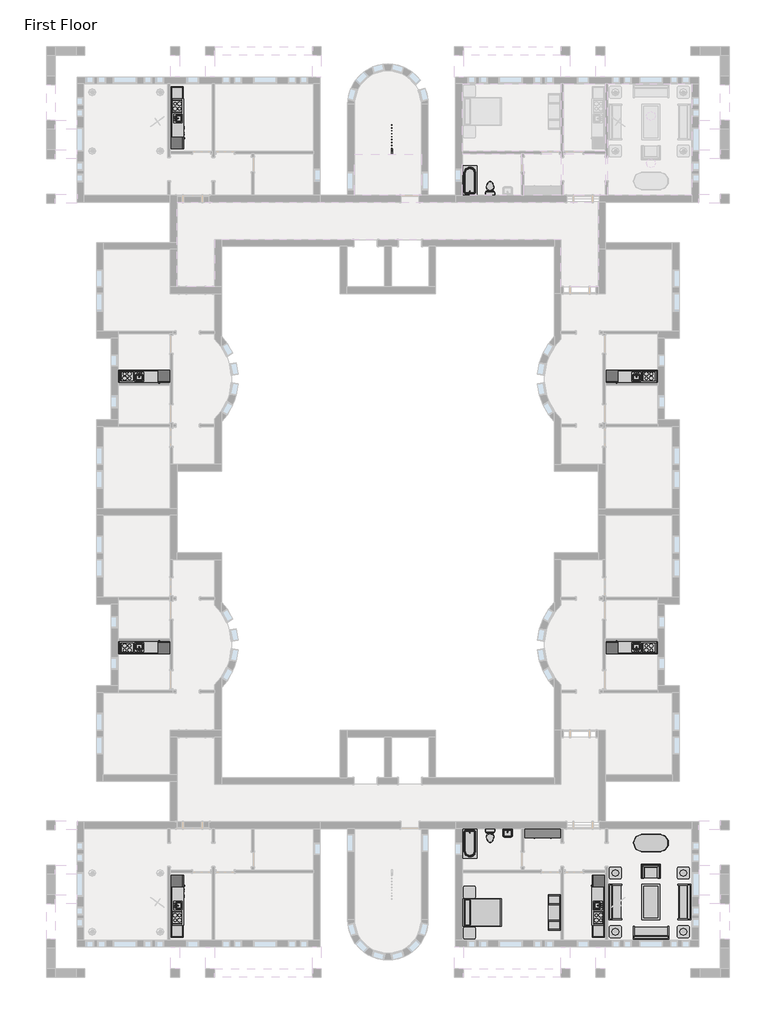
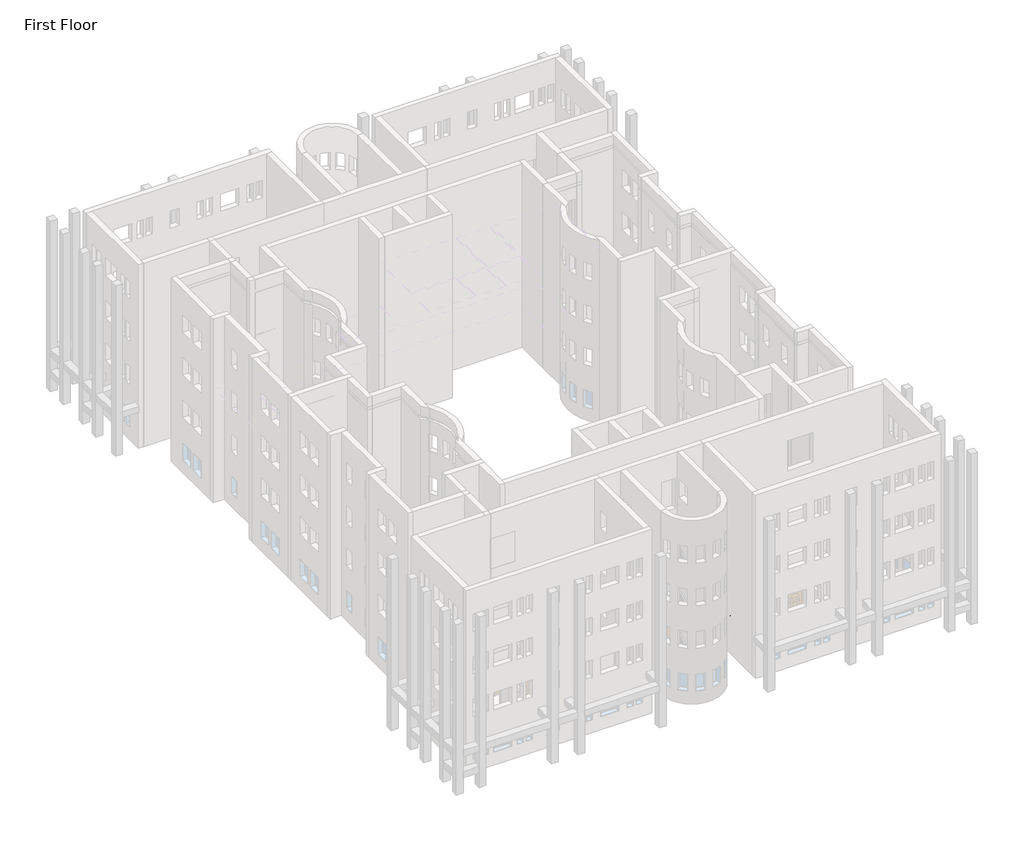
# One storey, part 22 of 23: 15 furniture elements, 7 proxies, 5 flow terminals, 1 railing.
"""IFC4 building model written with IfcOpenShell, lengths in millimetres."""

from ifc_helpers import new_model, si_unit, frame, origin, place, context, project, spatial, polyline, outline, extrude, transform, mapped, element, save
from components import kitchenette_medium_5_9f73a4de, kitchenette_medium_5_952fb32b, proxy_64a468c4, proxy_b7eaed23, flow_terminal_b53e1081, toilet_domestic_3d_toilet_domestic_3d_f7549cf7, toilet_domestic_3d_toilet_domestic_3d_183bbd19, toilet_domestic_3d_toilet_domestic_3d_a08e12bc, toilet_domestic_3d_toilet_domestic_3d_5530cc89, tub_rectangular_3d_tub_rectangular_3d_5e45a89b, tub_rectangular_3d_tub_rectangular_3d_98eb9c7c, furniture_097b173b, chair_corbu_chair_corbu_95fad79a, furniture_f6e81328, furniture_328d9d47, furniture_dde8a40a, furniture_c9413244, furniture_cc351095, furniture_3a588284, furniture_1befe2a2

model = new_model("IFC4")

# Units and contexts
model_context = context("Model", 3, world=origin())
ifc_project = project(units=[si_unit("LENGTHUNIT", "METRE", prefix="MILLI")], contexts=[model_context])

# Site, building, storey
site = spatial("IfcSite", under=ifc_project)
building = spatial("IfcBuilding", under=site)
storey = spatial("IfcBuildingStorey", under=building, Name="First Floor", Elevation=0.0)

# Proxies
placement = place(None, origin())
kitchenette_medium_5_shape = kitchenette_medium_5_9f73a4de(model_context)
element("IfcBuildingElementProxy", 1, Name="Kitchenette - Medium : 5'", ObjectType="Kitchenette - Medium : 5'", at=placement, inside=storey, context=model_context, shape_type="MappedRepresentation", body=[
    mapped(kitchenette_medium_5_shape, transform((-28239.6966612, -4494.4827414, 0.0), x_axis=(1.0, 0.0, 0.0), y_axis=(0.0, 1.0, 0.0), z_axis=(0.0, 0.0, 1.0))),
])
element("IfcBuildingElementProxy", 2, Name="Kitchenette - Medium : 5'", ObjectType="Kitchenette - Medium : 5'", at=placement, inside=storey, context=model_context, shape_type="MappedRepresentation", body=[
    mapped(kitchenette_medium_5_shape, transform((-1884.6462514, -19113.8538852, 0.0), x_axis=(-1.0, 0.0, 0.0), y_axis=(0.0, -1.0, 0.0), z_axis=(0.0, 0.0, 1.0))),
])
kitchenette_medium_5_2_shape = kitchenette_medium_5_952fb32b(model_context)
element("IfcBuildingElementProxy", 3, Name="Kitchenette - Medium : 5'", ObjectType="Kitchenette - Medium : 5'", at=placement, inside=storey, context=model_context, shape_type="MappedRepresentation", body=[
    mapped(kitchenette_medium_5_2_shape, transform((-1884.6462514, -4494.4827414, 0.0), x_axis=(-1.0, 0.0, 0.0), y_axis=(0.0, -1.0, 0.0), z_axis=(0.0, 0.0, 1.0))),
])
element("IfcBuildingElementProxy", 4, Name="Kitchenette - Medium : 5'", ObjectType="Kitchenette - Medium : 5'", at=placement, inside=storey, context=model_context, shape_type="MappedRepresentation", body=[
    mapped(kitchenette_medium_5_2_shape, transform((-28239.6966612, -19113.8538852, 0.0), x_axis=(1.0, 0.0, 0.0), y_axis=(0.0, 1.0, 0.0), z_axis=(0.0, 0.0, 1.0))),
])
proxy_shape = proxy_64a468c4(model_context)
element("IfcBuildingElementProxy", 5, Name="Kitchenette - Medium : 8'6\"", ObjectType="Kitchenette - Medium : 8'6\"", at=placement, inside=storey, context=model_context, shape_type="MappedRepresentation", body=[
    mapped(proxy_shape, transform((-26236.5839563, -32446.1322699, 0.0), x_axis=(0.0, 1.0, 0.0), y_axis=(-1.0, 0.0, 0.0), z_axis=(0.0, 0.0, 1.0))),
])
proxy_2_shape = proxy_b7eaed23(model_context)
element("IfcBuildingElementProxy", 6, Name="Kitchenette - Medium : 8'6\"", ObjectType="Kitchenette - Medium : 8'6\"", at=placement, inside=storey, context=model_context, shape_type="MappedRepresentation", body=[
    mapped(proxy_2_shape, transform((-26236.5839563, 8837.7956433, 0.0), x_axis=(0.0, -1.0, 0.0), y_axis=(1.0, 0.0, 0.0), z_axis=(0.0, 0.0, 1.0))),
])
element("IfcBuildingElementProxy", 7, Name="Kitchenette - Medium : 8'6\"", ObjectType="Kitchenette - Medium : 8'6\"", at=placement, inside=storey, context=model_context, shape_type="MappedRepresentation", body=[
    mapped(proxy_2_shape, transform((-3887.7589563, -32446.1322699, 0.0), x_axis=(0.0, 1.0, 0.0), y_axis=(-1.0, 0.0, 0.0), z_axis=(0.0, 0.0, 1.0))),
])

# Flow terminals
flow_terminal_shape = flow_terminal_b53e1081(model_context)
element("IfcFlowTerminal", 8, ObjectType="Sink Vanity-Square : 24\" x 19\"", at=placement, inside=storey, context=model_context, shape_type="MappedRepresentation", body=[
    mapped(flow_terminal_shape, transform((-8864.7572157, -28314.9262144, 0.0), x_axis=(-1.0, 0.0, 0.0), y_axis=(0.0, -1.0, 0.0), z_axis=(0.0, 0.0, 1.0))),
])
toilet_domestic_3d_toilet_domestic_3d_shape = toilet_domestic_3d_toilet_domestic_3d_f7549cf7(model_context)
toilet_domestic_3d_toilet_domestic_3d_2_shape = toilet_domestic_3d_toilet_domestic_3d_183bbd19(model_context)
element("IfcFlowTerminal", 9, ObjectType="Toilet-Domestic-3D : Toilet-Domestic-3D", at=placement, inside=storey, context=model_context, shape_type="MappedRepresentation", body=[
    mapped(toilet_domestic_3d_toilet_domestic_3d_shape, transform((-9782.1466587, 4940.866411, 0.0), x_axis=(-1.0000000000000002, 0.0, 0.0), y_axis=(0.0, -1.0000000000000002, 0.0), z_axis=(0.0, 0.0, 1.0))),
    mapped(toilet_domestic_3d_toilet_domestic_3d_2_shape, transform((-9782.1466587, 4940.866411, 0.0), x_axis=(-1.0000000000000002, 0.0, 0.0), y_axis=(0.0, -1.0000000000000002, 0.0), z_axis=(0.0, 0.0, 1.0))),
])
toilet_domestic_3d_toilet_domestic_3d_3_shape = toilet_domestic_3d_toilet_domestic_3d_a08e12bc(model_context)
toilet_domestic_3d_toilet_domestic_3d_4_shape = toilet_domestic_3d_toilet_domestic_3d_5530cc89(model_context)
element("IfcFlowTerminal", 10, ObjectType="Toilet-Domestic-3D : Toilet-Domestic-3D", at=placement, inside=storey, context=model_context, shape_type="MappedRepresentation", body=[
    mapped(toilet_domestic_3d_toilet_domestic_3d_3_shape, transform((-9782.1466587, -28549.2030376, 0.0), x_axis=(-1.0000000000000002, 0.0, 0.0), y_axis=(0.0, -1.0000000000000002, 0.0), z_axis=(0.0, 0.0, 1.0))),
    mapped(toilet_domestic_3d_toilet_domestic_3d_4_shape, transform((-9782.1466587, -28549.2030376, 0.0), x_axis=(-1.0000000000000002, 0.0, 0.0), y_axis=(0.0, -1.0000000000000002, 0.0), z_axis=(0.0, 0.0, 1.0))),
])
tub_rectangular_3d_tub_rectangular_3d_shape = tub_rectangular_3d_tub_rectangular_3d_5e45a89b(model_context)
element("IfcFlowTerminal", 11, ObjectType="Tub-Rectangular-3D : Tub-Rectangular-3D", at=placement, inside=storey, context=model_context, shape_type="MappedRepresentation", body=[
    mapped(tub_rectangular_3d_tub_rectangular_3d_shape, transform((-11393.4589563, 5637.0471554, 0.0), x_axis=(0.0, 1.0, 0.0), y_axis=(-1.0, 0.0, 0.0), z_axis=(0.0, 0.0, 1.0))),
])
tub_rectangular_3d_tub_rectangular_3d_2_shape = tub_rectangular_3d_tub_rectangular_3d_98eb9c7c(model_context)
element("IfcFlowTerminal", 12, ObjectType="Tub-Rectangular-3D : Tub-Rectangular-3D", at=placement, inside=storey, context=model_context, shape_type="MappedRepresentation", body=[
    mapped(tub_rectangular_3d_tub_rectangular_3d_2_shape, transform((-11393.4589563, -29245.383782, 0.0), x_axis=(0.0, -1.0, 0.0), y_axis=(1.0, 0.0, 0.0), z_axis=(0.0, 0.0, 1.0))),
])

# Furniture
furniture_shape = furniture_097b173b(model_context)
element("IfcFurniture", 13, ObjectType="Bed-Shaker : Double 56\" x 78\"", at=placement, inside=storey, context=model_context, shape_type="MappedRepresentation", body=[
    mapped(furniture_shape, transform((-11183.1982802, -32480.2121827, 0.0), x_axis=(0.0, -1.0, 0.0), y_axis=(1.0, 0.0, 0.0), z_axis=(0.0, 0.0, 1.0))),
])
chair_corbu_chair_corbu_shape = chair_corbu_chair_corbu_95fad79a(model_context)
element("IfcFurniture", 14, ObjectType="Chair-Corbu : Chair-Corbu", at=placement, inside=storey, context=model_context, shape_type="MappedRepresentation", body=[
    mapped(chair_corbu_chair_corbu_shape, transform((-914.0851858, -30801.8328625, 0.0), x_axis=(-1.0, 0.0, 0.0), y_axis=(0.0, -1.0, 0.0), z_axis=(0.0, 0.0, 1.0))),
])
furniture_2_shape = furniture_f6e81328(model_context)
element("IfcFurniture", 15, ObjectType="Dresser : 72\" x 60\" x 18\"", at=placement, inside=storey, context=model_context, shape_type="MappedRepresentation", body=[
    mapped(furniture_2_shape, transform((-7344.6522161, -28012.9178592, 0.0), x_axis=(-1.0, 0.0, 0.0), y_axis=(0.0, -1.0, 0.0), z_axis=(0.0, 0.0, 1.0))),
])
furniture_3_shape = furniture_328d9d47(model_context)
element("IfcFurniture", 16, ObjectType="Entertainment Center : 72\" x 72\" x 24\"", at=placement, inside=storey, context=model_context, shape_type="MappedRepresentation", body=[
    mapped(furniture_3_shape, transform((-6059.4589563, -32461.1621827, 0.0), x_axis=(0.0, 1.0, 0.0), y_axis=(-1.0, 0.0, 0.0), z_axis=(0.0, 0.0, 1.0))),
])
furniture_4_shape = furniture_dde8a40a(model_context)
element("IfcFurniture", 17, ObjectType="Sofa : 72\"", at=placement, inside=storey, context=model_context, shape_type="MappedRepresentation", body=[
    mapped(furniture_4_shape, transform((-1557.8294481, -33349.614215, 0.0), x_axis=(1.0, 0.0, 0.0), y_axis=(0.0, 1.0, 0.0), z_axis=(0.0, 0.0, 1.0))),
])
element("IfcFurniture", 18, ObjectType="Sofa : 72\"", at=placement, inside=storey, context=model_context, shape_type="MappedRepresentation", body=[
    mapped(furniture_4_shape, transform((93.5869453, -31991.3388051, 0.0), x_axis=(0.0, 1.0, 0.0), y_axis=(-1.0, 0.0, 0.0), z_axis=(0.0, 0.0, 1.0))),
])
element("IfcFurniture", 19, ObjectType="Sofa : 72\"", at=placement, inside=storey, context=model_context, shape_type="MappedRepresentation", body=[
    mapped(furniture_4_shape, transform((-3170.104858, -31850.5978215, 0.0), x_axis=(0.0, -1.0, 0.0), y_axis=(1.0, 0.0, 0.0), z_axis=(0.0, 0.0, 1.0))),
])
furniture_5_shape = furniture_c9413244(model_context)
element("IfcFurniture", 20, ObjectType="Table-Coffee : 36\" x 72\" x 18\"", at=placement, inside=storey, context=model_context, shape_type="MappedRepresentation", body=[
    mapped(furniture_5_shape, transform((-1582.6700341, -31939.23408, 0.0), x_axis=(0.0, 1.0, 0.0), y_axis=(-1.0, 0.0, 0.0), z_axis=(0.0, 0.0, 1.0))),
])
furniture_6_shape = furniture_cc351095(model_context)
element("IfcFurniture", 21, ObjectType="Table-Dining Oval : 36\" x 72\"", at=placement, inside=storey, context=model_context, shape_type="MappedRepresentation", body=[
    mapped(furniture_6_shape, transform((-1085.6392842, -29231.066674, 0.0), x_axis=(1.0, 0.0, 0.0), y_axis=(0.0, 1.0, 0.0), z_axis=(0.0, 0.0, 1.0))),
])
furniture_7_shape = furniture_3a588284(model_context)
element("IfcFurniture", 22, ObjectType="Table-End : 24\" x 24\"", at=placement, inside=storey, context=model_context, shape_type="MappedRepresentation", body=[
    mapped(furniture_7_shape, transform((-11164.2346356, -31557.9140031, 0.0), x_axis=(1.0, 0.0, 0.0), y_axis=(0.0, 1.0, 0.0), z_axis=(0.0, 0.0, 1.0))),
])
furniture_8_shape = furniture_1befe2a2(model_context)
element("IfcFurniture", 23, ObjectType="Table-End : 24\" x 24\"", at=placement, inside=storey, context=model_context, shape_type="MappedRepresentation", body=[
    mapped(furniture_8_shape, transform((-119.5925866, -33292.5683133, 0.0), x_axis=(1.0, 0.0, 0.0), y_axis=(0.0, 1.0, 0.0), z_axis=(0.0, 0.0, 1.0))),
])
element("IfcFurniture", 24, ObjectType="Table-End : 24\" x 24\"", at=placement, inside=storey, context=model_context, shape_type="MappedRepresentation", body=[
    mapped(furniture_8_shape, transform((-3624.7925866, -33292.5683133, 0.0), x_axis=(1.0, 0.0, 0.0), y_axis=(0.0, 1.0, 0.0), z_axis=(0.0, 0.0, 1.0))),
])
element("IfcFurniture", 25, ObjectType="Table-End : 24\" x 24\"", at=placement, inside=storey, context=model_context, shape_type="MappedRepresentation", body=[
    mapped(furniture_8_shape, transform((-3624.7925866, -30268.3808133, 0.0), x_axis=(1.0, 0.0, 0.0), y_axis=(0.0, 1.0, 0.0), z_axis=(0.0, 0.0, 1.0))),
])
element("IfcFurniture", 26, ObjectType="Table-End : 24\" x 24\"", at=placement, inside=storey, context=model_context, shape_type="MappedRepresentation", body=[
    mapped(furniture_8_shape, transform((-119.5925866, -30268.3808133, 0.0), x_axis=(1.0, 0.0, 0.0), y_axis=(0.0, 1.0, 0.0), z_axis=(0.0, 0.0, 1.0))),
])
element("IfcFurniture", 27, ObjectType="Table-End : 24\" x 24\"", at=placement, inside=storey, context=model_context, shape_type="MappedRepresentation", body=[
    mapped(furniture_8_shape, transform((-11164.2346356, -33364.4103623, 0.0), x_axis=(1.0, 0.0, 0.0), y_axis=(0.0, 1.0, 0.0), z_axis=(0.0, 0.0, 1.0))),
])

# Railing
element("IfcRailing", 28, ObjectType="Handrail - Rectangular", at=placement, inside=storey, context=model_context, shape_type="SweptSolid", body=[
    extrude(outline(polyline([(6636.2316867, 7120.3318731), (6636.2316867, 7179.7333333), (8820.6316867, 8503.6121212), (8820.6316867, 8444.2106609), (6636.2316867, 7120.3318731)])), frame((-14884.3714563, 0.0, 0.0), z_axis=(1.0, 0.0, 0.0), x_axis=(0.0, 1.0, 0.0)), (0.0, 0.0, 1.0), 50.8),
    extrude(outline(polyline([(-14833.5714563, 8871.4316867), (-14833.5714563, 8820.6316867), (-15225.6839563, 8820.6316867), (-15225.6839563, 8871.4316867), (-14833.5714563, 8871.4316867)])), frame((0.0, 0.0, 8483.6), z_axis=(0.0, 0.0, 1.0), x_axis=(1.0, 0.0, 0.0)), (0.0, 0.0, 1.0), 50.8),
    extrude(outline(polyline([(8871.4316867, 8703.7333333), (8871.4316867, 8644.3318731), (6636.2316867, 9998.9985397), (6636.2316867, 10058.4), (8871.4316867, 8703.7333333)])), frame((-15276.4839563, 0.0, 0.0), z_axis=(1.0, 0.0, 0.0), x_axis=(0.0, 1.0, 0.0)), (0.0, 0.0, 1.0), 50.8),
    extrude(outline(polyline([(6721.9566867, 9947.0439943), (6721.9566867, 9134.8266332), (6702.9066867, 9146.3720877), (6702.9066867, 9958.5894488), (6721.9566867, 9947.0439943)])), frame((-15260.6089563, 0.0, 0.0), z_axis=(1.0, 0.0, 0.0), x_axis=(0.0, 1.0, 0.0)), (0.0, 0.0, 1.0), 19.05),
    extrude(outline(polyline([(6874.3566867, 9854.6803579), (6874.3566867, 9042.4629968), (6855.3066867, 9054.0084513), (6855.3066867, 9866.2258125), (6874.3566867, 9854.6803579)])), frame((-15260.6089563, 0.0, 0.0), z_axis=(1.0, 0.0, 0.0), x_axis=(0.0, 1.0, 0.0)), (0.0, 0.0, 1.0), 19.05),
    extrude(outline(polyline([(7026.7566867, 9762.3167215), (7026.7566867, 8950.0993604), (7007.7066867, 8961.644815), (7007.7066867, 9773.8621761), (7026.7566867, 9762.3167215)])), frame((-15260.6089563, 0.0, 0.0), z_axis=(1.0, 0.0, 0.0), x_axis=(0.0, 1.0, 0.0)), (0.0, 0.0, 1.0), 19.05),
    extrude(outline(polyline([(7179.1566867, 9669.9530852), (7179.1566867, 8857.7357241), (7160.1066867, 8869.2811786), (7160.1066867, 9681.4985397), (7179.1566867, 9669.9530852)])), frame((-15260.6089563, 0.0, 0.0), z_axis=(1.0, 0.0, 0.0), x_axis=(0.0, 1.0, 0.0)), (0.0, 0.0, 1.0), 19.05),
    extrude(outline(polyline([(7331.5566867, 9577.5894488), (7331.5566867, 8765.3720877), (7312.5066867, 8776.9175422), (7312.5066867, 9589.1349034), (7331.5566867, 9577.5894488)])), frame((-15260.6089563, 0.0, 0.0), z_axis=(1.0, 0.0, 0.0), x_axis=(0.0, 1.0, 0.0)), (0.0, 0.0, 1.0), 19.05),
    extrude(outline(polyline([(7483.9566867, 9485.2258125), (7483.9566867, 8673.0084513), (7464.9066867, 8684.5539059), (7464.9066867, 9496.771267), (7483.9566867, 9485.2258125)])), frame((-15260.6089563, 0.0, 0.0), z_axis=(1.0, 0.0, 0.0), x_axis=(0.0, 1.0, 0.0)), (0.0, 0.0, 1.0), 19.05),
    extrude(outline(polyline([(7636.3566867, 9392.8621761), (7636.3566867, 8580.644815), (7617.3066867, 8592.1902695), (7617.3066867, 9404.4076306), (7636.3566867, 9392.8621761)])), frame((-15260.6089563, 0.0, 0.0), z_axis=(1.0, 0.0, 0.0), x_axis=(0.0, 1.0, 0.0)), (0.0, 0.0, 1.0), 19.05),
    extrude(outline(polyline([(7788.7566867, 9300.4985397), (7788.7566867, 8488.2811786), (7769.7066867, 8499.8266332), (7769.7066867, 9312.0439943), (7788.7566867, 9300.4985397)])), frame((-15260.6089563, 0.0, 0.0), z_axis=(1.0, 0.0, 0.0), x_axis=(0.0, 1.0, 0.0)), (0.0, 0.0, 1.0), 19.05),
    extrude(outline(polyline([(7941.1566867, 9208.1349034), (7941.1566867, 8395.9175422), (7922.1066867, 8407.4629968), (7922.1066867, 9219.6803579), (7941.1566867, 9208.1349034)])), frame((-15260.6089563, 0.0, 0.0), z_axis=(1.0, 0.0, 0.0), x_axis=(0.0, 1.0, 0.0)), (0.0, 0.0, 1.0), 19.05),
    extrude(outline(polyline([(8093.5566867, 9115.771267), (8093.5566867, 8303.5539059), (8074.5066867, 8315.0993604), (8074.5066867, 9127.3167215), (8093.5566867, 9115.771267)])), frame((-15260.6089563, 0.0, 0.0), z_axis=(1.0, 0.0, 0.0), x_axis=(0.0, 1.0, 0.0)), (0.0, 0.0, 1.0), 19.05),
    extrude(outline(polyline([(8245.9566867, 9023.4076306), (8245.9566867, 8211.1902695), (8226.9066867, 8222.7357241), (8226.9066867, 9034.9530852), (8245.9566867, 9023.4076306)])), frame((-15260.6089563, 0.0, 0.0), z_axis=(1.0, 0.0, 0.0), x_axis=(0.0, 1.0, 0.0)), (0.0, 0.0, 1.0), 19.05),
    extrude(outline(polyline([(8398.3566867, 8931.0439943), (8398.3566867, 8118.8266332), (8379.3066867, 8130.3720877), (8379.3066867, 8942.5894488), (8398.3566867, 8931.0439943)])), frame((-15260.6089563, 0.0, 0.0), z_axis=(1.0, 0.0, 0.0), x_axis=(0.0, 1.0, 0.0)), (0.0, 0.0, 1.0), 19.05),
    extrude(outline(polyline([(8550.7566867, 8838.6803579), (8550.7566867, 8026.4629968), (8531.7066867, 8038.0084513), (8531.7066867, 8850.2258125), (8550.7566867, 8838.6803579)])), frame((-15260.6089563, 0.0, 0.0), z_axis=(1.0, 0.0, 0.0), x_axis=(0.0, 1.0, 0.0)), (0.0, 0.0, 1.0), 19.05),
    extrude(outline(polyline([(8703.1566867, 8746.3167215), (8703.1566867, 7934.0993604), (8684.1066867, 7945.644815), (8684.1066867, 8757.8621761), (8703.1566867, 8746.3167215)])), frame((-15260.6089563, 0.0, 0.0), z_axis=(1.0, 0.0, 0.0), x_axis=(0.0, 1.0, 0.0)), (0.0, 0.0, 1.0), 19.05),
    extrude(outline(polyline([(-15154.2464563, 8836.5066867), (-15173.2964563, 8836.5066867), (-15173.2964563, 8855.5566867), (-15154.2464563, 8855.5566867), (-15154.2464563, 8836.5066867)])), frame((0.0, 0.0, 7696.2), z_axis=(0.0, 0.0, 1.0), x_axis=(1.0, 0.0, 0.0)), (0.0, 0.0, 1.0), 787.4),
    extrude(outline(polyline([(-15001.8464563, 8836.5066867), (-15020.8964563, 8836.5066867), (-15020.8964563, 8855.5566867), (-15001.8464563, 8855.5566867), (-15001.8464563, 8836.5066867)])), frame((0.0, 0.0, 7696.2), z_axis=(0.0, 0.0, 1.0), x_axis=(1.0, 0.0, 0.0)), (0.0, 0.0, 1.0), 787.4),
    extrude(outline(polyline([(8779.3566867, 8419.1955094), (8779.3566867, 7606.9781483), (8760.3066867, 7595.4326938), (8760.3066867, 8407.6500549), (8779.3566867, 8419.1955094)])), frame((-14868.4964563, 0.0, 0.0), z_axis=(1.0, 0.0, 0.0), x_axis=(0.0, 1.0, 0.0)), (0.0, 0.0, 1.0), 19.05),
    extrude(outline(polyline([(8626.9566867, 8326.8318731), (8626.9566867, 7514.6145119), (8607.9066867, 7503.0690574), (8607.9066867, 8315.2864185), (8626.9566867, 8326.8318731)])), frame((-14868.4964563, 0.0, 0.0), z_axis=(1.0, 0.0, 0.0), x_axis=(0.0, 1.0, 0.0)), (0.0, 0.0, 1.0), 19.05),
    extrude(outline(polyline([(8474.5566867, 8234.4682367), (8474.5566867, 7422.2508756), (8455.5066867, 7410.705421), (8455.5066867, 8222.9227822), (8474.5566867, 8234.4682367)])), frame((-14868.4964563, 0.0, 0.0), z_axis=(1.0, 0.0, 0.0), x_axis=(0.0, 1.0, 0.0)), (0.0, 0.0, 1.0), 19.05),
    extrude(outline(polyline([(8322.1566867, 8142.1046003), (8322.1566867, 7329.8872392), (8303.1066867, 7318.3417847), (8303.1066867, 8130.5591458), (8322.1566867, 8142.1046003)])), frame((-14868.4964563, 0.0, 0.0), z_axis=(1.0, 0.0, 0.0), x_axis=(0.0, 1.0, 0.0)), (0.0, 0.0, 1.0), 19.05),
    extrude(outline(polyline([(8169.7566867, 8049.740964), (8169.7566867, 7237.5236029), (8150.7066867, 7225.9781483), (8150.7066867, 8038.1955094), (8169.7566867, 8049.740964)])), frame((-14868.4964563, 0.0, 0.0), z_axis=(1.0, 0.0, 0.0), x_axis=(0.0, 1.0, 0.0)), (0.0, 0.0, 1.0), 19.05),
    extrude(outline(polyline([(8017.3566867, 7957.3773276), (8017.3566867, 7145.1599665), (7998.3066867, 7133.6145119), (7998.3066867, 7945.8318731), (8017.3566867, 7957.3773276)])), frame((-14868.4964563, 0.0, 0.0), z_axis=(1.0, 0.0, 0.0), x_axis=(0.0, 1.0, 0.0)), (0.0, 0.0, 1.0), 19.05),
    extrude(outline(polyline([(7864.9566867, 7865.0136912), (7864.9566867, 7052.7963301), (7845.9066867, 7041.2508756), (7845.9066867, 7853.4682367), (7864.9566867, 7865.0136912)])), frame((-14868.4964563, 0.0, 0.0), z_axis=(1.0, 0.0, 0.0), x_axis=(0.0, 1.0, 0.0)), (0.0, 0.0, 1.0), 19.05),
    extrude(outline(polyline([(7712.5566867, 7772.6500549), (7712.5566867, 6960.4326938), (7693.5066867, 6948.8872392), (7693.5066867, 7761.1046003), (7712.5566867, 7772.6500549)])), frame((-14868.4964563, 0.0, 0.0), z_axis=(1.0, 0.0, 0.0), x_axis=(0.0, 1.0, 0.0)), (0.0, 0.0, 1.0), 19.05),
    extrude(outline(polyline([(7560.1566867, 7680.2864185), (7560.1566867, 6868.0690574), (7541.1066867, 6856.5236029), (7541.1066867, 7668.740964), (7560.1566867, 7680.2864185)])), frame((-14868.4964563, 0.0, 0.0), z_axis=(1.0, 0.0, 0.0), x_axis=(0.0, 1.0, 0.0)), (0.0, 0.0, 1.0), 19.05),
    extrude(outline(polyline([(7407.7566867, 7587.9227822), (7407.7566867, 6775.705421), (7388.7066867, 6764.1599665), (7388.7066867, 7576.3773276), (7407.7566867, 7587.9227822)])), frame((-14868.4964563, 0.0, 0.0), z_axis=(1.0, 0.0, 0.0), x_axis=(0.0, 1.0, 0.0)), (0.0, 0.0, 1.0), 19.05),
    extrude(outline(polyline([(7255.3566867, 7495.5591458), (7255.3566867, 6683.3417847), (7236.3066867, 6671.7963301), (7236.3066867, 7484.0136912), (7255.3566867, 7495.5591458)])), frame((-14868.4964563, 0.0, 0.0), z_axis=(1.0, 0.0, 0.0), x_axis=(0.0, 1.0, 0.0)), (0.0, 0.0, 1.0), 19.05),
    extrude(outline(polyline([(7102.9566867, 7403.1955094), (7102.9566867, 6590.9781483), (7083.9066867, 6579.4326938), (7083.9066867, 7391.6500549), (7102.9566867, 7403.1955094)])), frame((-14868.4964563, 0.0, 0.0), z_axis=(1.0, 0.0, 0.0), x_axis=(0.0, 1.0, 0.0)), (0.0, 0.0, 1.0), 19.05),
    extrude(outline(polyline([(6950.5566867, 7310.8318731), (6950.5566867, 6498.6145119), (6931.5066867, 6487.0690574), (6931.5066867, 7299.2864185), (6950.5566867, 7310.8318731)])), frame((-14868.4964563, 0.0, 0.0), z_axis=(1.0, 0.0, 0.0), x_axis=(0.0, 1.0, 0.0)), (0.0, 0.0, 1.0), 19.05),
    extrude(outline(polyline([(6798.1566867, 7218.4682367), (6798.1566867, 6406.2508756), (6779.1066867, 6394.705421), (6779.1066867, 7206.9227822), (6798.1566867, 7218.4682367)])), frame((-14868.4964563, 0.0, 0.0), z_axis=(1.0, 0.0, 0.0), x_axis=(0.0, 1.0, 0.0)), (0.0, 0.0, 1.0), 19.05),
    extrude(outline(polyline([(8855.5566867, 8653.9530852), (8855.5566867, 7841.7357241), (8836.5066867, 7853.2811786), (8836.5066867, 8665.4985397), (8855.5566867, 8653.9530852)])), frame((-15260.6089563, 0.0, 0.0), z_axis=(1.0, 0.0, 0.0), x_axis=(0.0, 1.0, 0.0)), (0.0, 0.0, 1.0), 19.05),
    extrude(outline(polyline([(-14849.4464563, 8836.5066867), (-14868.4964563, 8836.5066867), (-14868.4964563, 8855.5566867), (-14849.4464563, 8855.5566867), (-14849.4464563, 8836.5066867)])), frame((0.0, 0.0, 7696.2), z_axis=(0.0, 0.0, 1.0), x_axis=(1.0, 0.0, 0.0)), (0.0, 0.0, 1.0), 787.4),
    extrude(outline(polyline([(6655.2816867, 9987.4530852), (6655.2816867, 9175.2357241), (6636.2316867, 9186.7811786), (6636.2316867, 9998.9985397), (6655.2816867, 9987.4530852)])), frame((-15260.6089563, 0.0, 0.0), z_axis=(1.0, 0.0, 0.0), x_axis=(0.0, 1.0, 0.0)), (0.0, 0.0, 1.0), 19.05),
    extrude(outline(polyline([(6655.2816867, 7131.8773276), (6655.2816867, 6319.6599665), (6636.2316867, 6308.1145119), (6636.2316867, 7120.3318731), (6655.2816867, 7131.8773276)])), frame((-14868.4964563, 0.0, 0.0), z_axis=(1.0, 0.0, 0.0), x_axis=(0.0, 1.0, 0.0)), (0.0, 0.0, 1.0), 19.05),
    extrude(outline(polyline([(6636.2316867, 4072.3318731), (6636.2316867, 4131.7333333), (8820.6316867, 5455.6121212), (8820.6316867, 5396.210661), (6636.2316867, 4072.3318731)])), frame((-14884.3714563, 0.0, 0.0), z_axis=(1.0, 0.0, 0.0), x_axis=(0.0, 1.0, 0.0)), (0.0, 0.0, 1.0), 50.8),
    extrude(outline(polyline([(-14833.5714563, 8871.4316867), (-14833.5714563, 8820.6316867), (-15225.6839563, 8820.6316867), (-15225.6839563, 8871.4316867), (-14833.5714563, 8871.4316867)])), frame((0.0, 0.0, 5435.6), z_axis=(0.0, 0.0, 1.0), x_axis=(1.0, 0.0, 0.0)), (0.0, 0.0, 1.0), 50.8),
    extrude(outline(polyline([(8871.4316867, 5655.7333333), (8871.4316867, 5596.3318731), (6636.2316867, 6950.9985397), (6636.2316867, 7010.4), (8871.4316867, 5655.7333333)])), frame((-15276.4839563, 0.0, 0.0), z_axis=(1.0, 0.0, 0.0), x_axis=(0.0, 1.0, 0.0)), (0.0, 0.0, 1.0), 50.8),
    extrude(outline(polyline([(6721.9566867, 6899.0439943), (6721.9566867, 6086.8266332), (6702.9066867, 6098.3720877), (6702.9066867, 6910.5894488), (6721.9566867, 6899.0439943)])), frame((-15260.6089563, 0.0, 0.0), z_axis=(1.0, 0.0, 0.0), x_axis=(0.0, 1.0, 0.0)), (0.0, 0.0, 1.0), 19.05),
    extrude(outline(polyline([(6874.3566867, 6806.6803579), (6874.3566867, 5994.4629968), (6855.3066867, 6006.0084513), (6855.3066867, 6818.2258125), (6874.3566867, 6806.6803579)])), frame((-15260.6089563, 0.0, 0.0), z_axis=(1.0, 0.0, 0.0), x_axis=(0.0, 1.0, 0.0)), (0.0, 0.0, 1.0), 19.05),
    extrude(outline(polyline([(7026.7566867, 6714.3167216), (7026.7566867, 5902.0993604), (7007.7066867, 5913.644815), (7007.7066867, 6725.8621761), (7026.7566867, 6714.3167216)])), frame((-15260.6089563, 0.0, 0.0), z_axis=(1.0, 0.0, 0.0), x_axis=(0.0, 1.0, 0.0)), (0.0, 0.0, 1.0), 19.05),
    extrude(outline(polyline([(7179.1566867, 6621.9530852), (7179.1566867, 5809.7357241), (7160.1066867, 5821.2811786), (7160.1066867, 6633.4985397), (7179.1566867, 6621.9530852)])), frame((-15260.6089563, 0.0, 0.0), z_axis=(1.0, 0.0, 0.0), x_axis=(0.0, 1.0, 0.0)), (0.0, 0.0, 1.0), 19.05),
    extrude(outline(polyline([(7331.5566867, 6529.5894488), (7331.5566867, 5717.3720877), (7312.5066867, 5728.9175423), (7312.5066867, 6541.1349034), (7331.5566867, 6529.5894488)])), frame((-15260.6089563, 0.0, 0.0), z_axis=(1.0, 0.0, 0.0), x_axis=(0.0, 1.0, 0.0)), (0.0, 0.0, 1.0), 19.05),
    extrude(outline(polyline([(7483.9566867, 6437.2258125), (7483.9566867, 5625.0084513), (7464.9066867, 5636.5539059), (7464.9066867, 6448.771267), (7483.9566867, 6437.2258125)])), frame((-15260.6089563, 0.0, 0.0), z_axis=(1.0, 0.0, 0.0), x_axis=(0.0, 1.0, 0.0)), (0.0, 0.0, 1.0), 19.05),
    extrude(outline(polyline([(7636.3566867, 6344.8621761), (7636.3566867, 5532.644815), (7617.3066867, 5544.1902695), (7617.3066867, 6356.4076306), (7636.3566867, 6344.8621761)])), frame((-15260.6089563, 0.0, 0.0), z_axis=(1.0, 0.0, 0.0), x_axis=(0.0, 1.0, 0.0)), (0.0, 0.0, 1.0), 19.05),
    extrude(outline(polyline([(7788.7566867, 6252.4985397), (7788.7566867, 5440.2811786), (7769.7066867, 5451.8266332), (7769.7066867, 6264.0439943), (7788.7566867, 6252.4985397)])), frame((-15260.6089563, 0.0, 0.0), z_axis=(1.0, 0.0, 0.0), x_axis=(0.0, 1.0, 0.0)), (0.0, 0.0, 1.0), 19.05),
    extrude(outline(polyline([(7941.1566867, 6160.1349034), (7941.1566867, 5347.9175423), (7922.1066867, 5359.4629968), (7922.1066867, 6171.6803579), (7941.1566867, 6160.1349034)])), frame((-15260.6089563, 0.0, 0.0), z_axis=(1.0, 0.0, 0.0), x_axis=(0.0, 1.0, 0.0)), (0.0, 0.0, 1.0), 19.05),
    extrude(outline(polyline([(8093.5566867, 6067.771267), (8093.5566867, 5255.5539059), (8074.5066867, 5267.0993604), (8074.5066867, 6079.3167216), (8093.5566867, 6067.771267)])), frame((-15260.6089563, 0.0, 0.0), z_axis=(1.0, 0.0, 0.0), x_axis=(0.0, 1.0, 0.0)), (0.0, 0.0, 1.0), 19.05),
    extrude(outline(polyline([(8245.9566867, 5975.4076306), (8245.9566867, 5163.1902695), (8226.9066867, 5174.7357241), (8226.9066867, 5986.9530852), (8245.9566867, 5975.4076306)])), frame((-15260.6089563, 0.0, 0.0), z_axis=(1.0, 0.0, 0.0), x_axis=(0.0, 1.0, 0.0)), (0.0, 0.0, 1.0), 19.05),
    extrude(outline(polyline([(8398.3566867, 5883.0439943), (8398.3566867, 5070.8266332), (8379.3066867, 5082.3720877), (8379.3066867, 5894.5894488), (8398.3566867, 5883.0439943)])), frame((-15260.6089563, 0.0, 0.0), z_axis=(1.0, 0.0, 0.0), x_axis=(0.0, 1.0, 0.0)), (0.0, 0.0, 1.0), 19.05),
    extrude(outline(polyline([(8550.7566867, 5790.6803579), (8550.7566867, 4978.4629968), (8531.7066867, 4990.0084513), (8531.7066867, 5802.2258125), (8550.7566867, 5790.6803579)])), frame((-15260.6089563, 0.0, 0.0), z_axis=(1.0, 0.0, 0.0), x_axis=(0.0, 1.0, 0.0)), (0.0, 0.0, 1.0), 19.05),
    extrude(outline(polyline([(8703.1566867, 5698.3167216), (8703.1566867, 4886.0993604), (8684.1066867, 4897.644815), (8684.1066867, 5709.8621761), (8703.1566867, 5698.3167216)])), frame((-15260.6089563, 0.0, 0.0), z_axis=(1.0, 0.0, 0.0), x_axis=(0.0, 1.0, 0.0)), (0.0, 0.0, 1.0), 19.05),
    extrude(outline(polyline([(-15154.2464563, 8836.5066867), (-15173.2964563, 8836.5066867), (-15173.2964563, 8855.5566867), (-15154.2464563, 8855.5566867), (-15154.2464563, 8836.5066867)])), frame((0.0, 0.0, 4648.2), z_axis=(0.0, 0.0, 1.0), x_axis=(1.0, 0.0, 0.0)), (0.0, 0.0, 1.0), 787.4),
    extrude(outline(polyline([(-15001.8464563, 8836.5066867), (-15020.8964563, 8836.5066867), (-15020.8964563, 8855.5566867), (-15001.8464563, 8855.5566867), (-15001.8464563, 8836.5066867)])), frame((0.0, 0.0, 4648.2), z_axis=(0.0, 0.0, 1.0), x_axis=(1.0, 0.0, 0.0)), (0.0, 0.0, 1.0), 787.4),
    extrude(outline(polyline([(8779.3566867, 5371.1955094), (8779.3566867, 4558.9781483), (8760.3066867, 4547.4326938), (8760.3066867, 5359.6500549), (8779.3566867, 5371.1955094)])), frame((-14868.4964563, 0.0, 0.0), z_axis=(1.0, 0.0, 0.0), x_axis=(0.0, 1.0, 0.0)), (0.0, 0.0, 1.0), 19.05),
    extrude(outline(polyline([(8626.9566867, 5278.8318731), (8626.9566867, 4466.614512), (8607.9066867, 4455.0690574), (8607.9066867, 5267.2864185), (8626.9566867, 5278.8318731)])), frame((-14868.4964563, 0.0, 0.0), z_axis=(1.0, 0.0, 0.0), x_axis=(0.0, 1.0, 0.0)), (0.0, 0.0, 1.0), 19.05),
    extrude(outline(polyline([(8474.5566867, 5186.4682367), (8474.5566867, 4374.2508756), (8455.5066867, 4362.705421), (8455.5066867, 5174.9227822), (8474.5566867, 5186.4682367)])), frame((-14868.4964563, 0.0, 0.0), z_axis=(1.0, 0.0, 0.0), x_axis=(0.0, 1.0, 0.0)), (0.0, 0.0, 1.0), 19.05),
    extrude(outline(polyline([(8322.1566867, 5094.1046003), (8322.1566867, 4281.8872392), (8303.1066867, 4270.3417847), (8303.1066867, 5082.5591458), (8322.1566867, 5094.1046003)])), frame((-14868.4964563, 0.0, 0.0), z_axis=(1.0, 0.0, 0.0), x_axis=(0.0, 1.0, 0.0)), (0.0, 0.0, 1.0), 19.05),
    extrude(outline(polyline([(8169.7566867, 5001.740964), (8169.7566867, 4189.5236029), (8150.7066867, 4177.9781483), (8150.7066867, 4990.1955094), (8169.7566867, 5001.740964)])), frame((-14868.4964563, 0.0, 0.0), z_axis=(1.0, 0.0, 0.0), x_axis=(0.0, 1.0, 0.0)), (0.0, 0.0, 1.0), 19.05),
    extrude(outline(polyline([(8017.3566867, 4909.3773276), (8017.3566867, 4097.1599665), (7998.3066867, 4085.614512), (7998.3066867, 4897.8318731), (8017.3566867, 4909.3773276)])), frame((-14868.4964563, 0.0, 0.0), z_axis=(1.0, 0.0, 0.0), x_axis=(0.0, 1.0, 0.0)), (0.0, 0.0, 1.0), 19.05),
    extrude(outline(polyline([(7864.9566867, 4817.0136913), (7864.9566867, 4004.7963301), (7845.9066867, 3993.2508756), (7845.9066867, 4805.4682367), (7864.9566867, 4817.0136913)])), frame((-14868.4964563, 0.0, 0.0), z_axis=(1.0, 0.0, 0.0), x_axis=(0.0, 1.0, 0.0)), (0.0, 0.0, 1.0), 19.05),
    extrude(outline(polyline([(7712.5566867, 4724.6500549), (7712.5566867, 3912.4326938), (7693.5066867, 3900.8872392), (7693.5066867, 4713.1046003), (7712.5566867, 4724.6500549)])), frame((-14868.4964563, 0.0, 0.0), z_axis=(1.0, 0.0, 0.0), x_axis=(0.0, 1.0, 0.0)), (0.0, 0.0, 1.0), 19.05),
    extrude(outline(polyline([(7560.1566867, 4632.2864185), (7560.1566867, 3820.0690574), (7541.1066867, 3808.5236029), (7541.1066867, 4620.740964), (7560.1566867, 4632.2864185)])), frame((-14868.4964563, 0.0, 0.0), z_axis=(1.0, 0.0, 0.0), x_axis=(0.0, 1.0, 0.0)), (0.0, 0.0, 1.0), 19.05),
    extrude(outline(polyline([(7407.7566867, 4539.9227822), (7407.7566867, 3727.705421), (7388.7066867, 3716.1599665), (7388.7066867, 4528.3773276), (7407.7566867, 4539.9227822)])), frame((-14868.4964563, 0.0, 0.0), z_axis=(1.0, 0.0, 0.0), x_axis=(0.0, 1.0, 0.0)), (0.0, 0.0, 1.0), 19.05),
    extrude(outline(polyline([(7255.3566867, 4447.5591458), (7255.3566867, 3635.3417847), (7236.3066867, 3623.7963301), (7236.3066867, 4436.0136913), (7255.3566867, 4447.5591458)])), frame((-14868.4964563, 0.0, 0.0), z_axis=(1.0, 0.0, 0.0), x_axis=(0.0, 1.0, 0.0)), (0.0, 0.0, 1.0), 19.05),
    extrude(outline(polyline([(7102.9566867, 4355.1955094), (7102.9566867, 3542.9781483), (7083.9066867, 3531.4326938), (7083.9066867, 4343.6500549), (7102.9566867, 4355.1955094)])), frame((-14868.4964563, 0.0, 0.0), z_axis=(1.0, 0.0, 0.0), x_axis=(0.0, 1.0, 0.0)), (0.0, 0.0, 1.0), 19.05),
    extrude(outline(polyline([(6950.5566867, 4262.8318731), (6950.5566867, 3450.614512), (6931.5066867, 3439.0690574), (6931.5066867, 4251.2864185), (6950.5566867, 4262.8318731)])), frame((-14868.4964563, 0.0, 0.0), z_axis=(1.0, 0.0, 0.0), x_axis=(0.0, 1.0, 0.0)), (0.0, 0.0, 1.0), 19.05),
    extrude(outline(polyline([(6798.1566867, 4170.4682367), (6798.1566867, 3358.2508756), (6779.1066867, 3346.705421), (6779.1066867, 4158.9227822), (6798.1566867, 4170.4682367)])), frame((-14868.4964563, 0.0, 0.0), z_axis=(1.0, 0.0, 0.0), x_axis=(0.0, 1.0, 0.0)), (0.0, 0.0, 1.0), 19.05),
    extrude(outline(polyline([(8855.5566867, 5605.9530852), (8855.5566867, 4793.7357241), (8836.5066867, 4805.2811786), (8836.5066867, 5617.4985397), (8855.5566867, 5605.9530852)])), frame((-15260.6089563, 0.0, 0.0), z_axis=(1.0, 0.0, 0.0), x_axis=(0.0, 1.0, 0.0)), (0.0, 0.0, 1.0), 19.05),
    extrude(outline(polyline([(-14849.4464563, 8836.5066867), (-14868.4964563, 8836.5066867), (-14868.4964563, 8855.5566867), (-14849.4464563, 8855.5566867), (-14849.4464563, 8836.5066867)])), frame((0.0, 0.0, 4648.2), z_axis=(0.0, 0.0, 1.0), x_axis=(1.0, 0.0, 0.0)), (0.0, 0.0, 1.0), 787.4),
    extrude(outline(polyline([(6655.2816867, 6939.4530852), (6655.2816867, 6127.2357241), (6636.2316867, 6138.7811786), (6636.2316867, 6950.9985397), (6655.2816867, 6939.4530852)])), frame((-15260.6089563, 0.0, 0.0), z_axis=(1.0, 0.0, 0.0), x_axis=(0.0, 1.0, 0.0)), (0.0, 0.0, 1.0), 19.05),
    extrude(outline(polyline([(6655.2816867, 4083.8773276), (6655.2816867, 3271.6599665), (6636.2316867, 3260.114512), (6636.2316867, 4072.3318731), (6655.2816867, 4083.8773276)])), frame((-14868.4964563, 0.0, 0.0), z_axis=(1.0, 0.0, 0.0), x_axis=(0.0, 1.0, 0.0)), (0.0, 0.0, 1.0), 19.05),
    extrude(outline(polyline([(6636.2316867, 1024.3318731), (6636.2316867, 1083.7333333), (8820.6316867, 2407.6121212), (8820.6316867, 2348.210661), (6636.2316867, 1024.3318731)])), frame((-14884.3714563, 0.0, 0.0), z_axis=(1.0, 0.0, 0.0), x_axis=(0.0, 1.0, 0.0)), (0.0, 0.0, 1.0), 50.8),
    extrude(outline(polyline([(-14833.5714563, 8871.4316867), (-14833.5714563, 8820.6316867), (-15225.6839563, 8820.6316867), (-15225.6839563, 8871.4316867), (-14833.5714563, 8871.4316867)])), frame((0.0, 0.0, 2387.6), z_axis=(0.0, 0.0, 1.0), x_axis=(1.0, 0.0, 0.0)), (0.0, 0.0, 1.0), 50.8),
    extrude(outline(polyline([(8871.4316867, 2607.7333333), (8871.4316867, 2548.3318731), (6636.2316867, 3902.9985397), (6636.2316867, 3962.4), (8871.4316867, 2607.7333333)])), frame((-15276.4839563, 0.0, 0.0), z_axis=(1.0, 0.0, 0.0), x_axis=(0.0, 1.0, 0.0)), (0.0, 0.0, 1.0), 50.8),
    extrude(outline(polyline([(6721.9566867, 3851.0439943), (6721.9566867, 3038.8266332), (6702.9066867, 3050.3720877), (6702.9066867, 3862.5894488), (6721.9566867, 3851.0439943)])), frame((-15260.6089563, 0.0, 0.0), z_axis=(1.0, 0.0, 0.0), x_axis=(0.0, 1.0, 0.0)), (0.0, 0.0, 1.0), 19.05),
    extrude(outline(polyline([(6874.3566867, 3758.6803579), (6874.3566867, 2946.4629968), (6855.3066867, 2958.0084514), (6855.3066867, 3770.2258125), (6874.3566867, 3758.6803579)])), frame((-15260.6089563, 0.0, 0.0), z_axis=(1.0, 0.0, 0.0), x_axis=(0.0, 1.0, 0.0)), (0.0, 0.0, 1.0), 19.05),
    extrude(outline(polyline([(7026.7566867, 3666.3167216), (7026.7566867, 2854.0993604), (7007.7066867, 2865.644815), (7007.7066867, 3677.8621761), (7026.7566867, 3666.3167216)])), frame((-15260.6089563, 0.0, 0.0), z_axis=(1.0, 0.0, 0.0), x_axis=(0.0, 1.0, 0.0)), (0.0, 0.0, 1.0), 19.05),
    extrude(outline(polyline([(7179.1566867, 3573.9530852), (7179.1566867, 2761.7357241), (7160.1066867, 2773.2811786), (7160.1066867, 3585.4985397), (7179.1566867, 3573.9530852)])), frame((-15260.6089563, 0.0, 0.0), z_axis=(1.0, 0.0, 0.0), x_axis=(0.0, 1.0, 0.0)), (0.0, 0.0, 1.0), 19.05),
    extrude(outline(polyline([(7331.5566867, 3481.5894488), (7331.5566867, 2669.3720877), (7312.5066867, 2680.9175423), (7312.5066867, 3493.1349034), (7331.5566867, 3481.5894488)])), frame((-15260.6089563, 0.0, 0.0), z_axis=(1.0, 0.0, 0.0), x_axis=(0.0, 1.0, 0.0)), (0.0, 0.0, 1.0), 19.05),
    extrude(outline(polyline([(7483.9566867, 3389.2258125), (7483.9566867, 2577.0084514), (7464.9066867, 2588.5539059), (7464.9066867, 3400.771267), (7483.9566867, 3389.2258125)])), frame((-15260.6089563, 0.0, 0.0), z_axis=(1.0, 0.0, 0.0), x_axis=(0.0, 1.0, 0.0)), (0.0, 0.0, 1.0), 19.05),
    extrude(outline(polyline([(7636.3566867, 3296.8621761), (7636.3566867, 2484.644815), (7617.3066867, 2496.1902695), (7617.3066867, 3308.4076307), (7636.3566867, 3296.8621761)])), frame((-15260.6089563, 0.0, 0.0), z_axis=(1.0, 0.0, 0.0), x_axis=(0.0, 1.0, 0.0)), (0.0, 0.0, 1.0), 19.05),
    extrude(outline(polyline([(7788.7566867, 3204.4985397), (7788.7566867, 2392.2811786), (7769.7066867, 2403.8266332), (7769.7066867, 3216.0439943), (7788.7566867, 3204.4985397)])), frame((-15260.6089563, 0.0, 0.0), z_axis=(1.0, 0.0, 0.0), x_axis=(0.0, 1.0, 0.0)), (0.0, 0.0, 1.0), 19.05),
    extrude(outline(polyline([(7941.1566867, 3112.1349034), (7941.1566867, 2299.9175423), (7922.1066867, 2311.4629968), (7922.1066867, 3123.6803579), (7941.1566867, 3112.1349034)])), frame((-15260.6089563, 0.0, 0.0), z_axis=(1.0, 0.0, 0.0), x_axis=(0.0, 1.0, 0.0)), (0.0, 0.0, 1.0), 19.05),
    extrude(outline(polyline([(8093.5566867, 3019.771267), (8093.5566867, 2207.5539059), (8074.5066867, 2219.0993604), (8074.5066867, 3031.3167216), (8093.5566867, 3019.771267)])), frame((-15260.6089563, 0.0, 0.0), z_axis=(1.0, 0.0, 0.0), x_axis=(0.0, 1.0, 0.0)), (0.0, 0.0, 1.0), 19.05),
    extrude(outline(polyline([(8245.9566867, 2927.4076307), (8245.9566867, 2115.1902695), (8226.9066867, 2126.7357241), (8226.9066867, 2938.9530852), (8245.9566867, 2927.4076307)])), frame((-15260.6089563, 0.0, 0.0), z_axis=(1.0, 0.0, 0.0), x_axis=(0.0, 1.0, 0.0)), (0.0, 0.0, 1.0), 19.05),
    extrude(outline(polyline([(8398.3566867, 2835.0439943), (8398.3566867, 2022.8266332), (8379.3066867, 2034.3720877), (8379.3066867, 2846.5894488), (8398.3566867, 2835.0439943)])), frame((-15260.6089563, 0.0, 0.0), z_axis=(1.0, 0.0, 0.0), x_axis=(0.0, 1.0, 0.0)), (0.0, 0.0, 1.0), 19.05),
    extrude(outline(polyline([(8550.7566867, 2742.6803579), (8550.7566867, 1930.4629968), (8531.7066867, 1942.0084514), (8531.7066867, 2754.2258125), (8550.7566867, 2742.6803579)])), frame((-15260.6089563, 0.0, 0.0), z_axis=(1.0, 0.0, 0.0), x_axis=(0.0, 1.0, 0.0)), (0.0, 0.0, 1.0), 19.05),
    extrude(outline(polyline([(8703.1566867, 2650.3167216), (8703.1566867, 1838.0993604), (8684.1066867, 1849.644815), (8684.1066867, 2661.8621761), (8703.1566867, 2650.3167216)])), frame((-15260.6089563, 0.0, 0.0), z_axis=(1.0, 0.0, 0.0), x_axis=(0.0, 1.0, 0.0)), (0.0, 0.0, 1.0), 19.05),
    extrude(outline(polyline([(-15154.2464563, 8836.5066867), (-15173.2964563, 8836.5066867), (-15173.2964563, 8855.5566867), (-15154.2464563, 8855.5566867), (-15154.2464563, 8836.5066867)])), frame((0.0, 0.0, 1600.2), z_axis=(0.0, 0.0, 1.0), x_axis=(1.0, 0.0, 0.0)), (0.0, 0.0, 1.0), 787.4),
    extrude(outline(polyline([(-15001.8464563, 8836.5066867), (-15020.8964563, 8836.5066867), (-15020.8964563, 8855.5566867), (-15001.8464563, 8855.5566867), (-15001.8464563, 8836.5066867)])), frame((0.0, 0.0, 1600.2), z_axis=(0.0, 0.0, 1.0), x_axis=(1.0, 0.0, 0.0)), (0.0, 0.0, 1.0), 787.4),
    extrude(outline(polyline([(8779.3566867, 2323.1955094), (8779.3566867, 1510.9781483), (8760.3066867, 1499.4326938), (8760.3066867, 2311.6500549), (8779.3566867, 2323.1955094)])), frame((-14868.4964563, 0.0, 0.0), z_axis=(1.0, 0.0, 0.0), x_axis=(0.0, 1.0, 0.0)), (0.0, 0.0, 1.0), 19.05),
    extrude(outline(polyline([(8626.9566867, 2230.8318731), (8626.9566867, 1418.614512), (8607.9066867, 1407.0690574), (8607.9066867, 2219.2864185), (8626.9566867, 2230.8318731)])), frame((-14868.4964563, 0.0, 0.0), z_axis=(1.0, 0.0, 0.0), x_axis=(0.0, 1.0, 0.0)), (0.0, 0.0, 1.0), 19.05),
    extrude(outline(polyline([(8474.5566867, 2138.4682367), (8474.5566867, 1326.2508756), (8455.5066867, 1314.7054211), (8455.5066867, 2126.9227822), (8474.5566867, 2138.4682367)])), frame((-14868.4964563, 0.0, 0.0), z_axis=(1.0, 0.0, 0.0), x_axis=(0.0, 1.0, 0.0)), (0.0, 0.0, 1.0), 19.05),
    extrude(outline(polyline([(8322.1566867, 2046.1046004), (8322.1566867, 1233.8872392), (8303.1066867, 1222.3417847), (8303.1066867, 2034.5591458), (8322.1566867, 2046.1046004)])), frame((-14868.4964563, 0.0, 0.0), z_axis=(1.0, 0.0, 0.0), x_axis=(0.0, 1.0, 0.0)), (0.0, 0.0, 1.0), 19.05),
    extrude(outline(polyline([(8169.7566867, 1953.740964), (8169.7566867, 1141.5236029), (8150.7066867, 1129.9781483), (8150.7066867, 1942.1955094), (8169.7566867, 1953.740964)])), frame((-14868.4964563, 0.0, 0.0), z_axis=(1.0, 0.0, 0.0), x_axis=(0.0, 1.0, 0.0)), (0.0, 0.0, 1.0), 19.05),
    extrude(outline(polyline([(8017.3566867, 1861.3773276), (8017.3566867, 1049.1599665), (7998.3066867, 1037.614512), (7998.3066867, 1849.8318731), (8017.3566867, 1861.3773276)])), frame((-14868.4964563, 0.0, 0.0), z_axis=(1.0, 0.0, 0.0), x_axis=(0.0, 1.0, 0.0)), (0.0, 0.0, 1.0), 19.05),
    extrude(outline(polyline([(7864.9566867, 1769.0136913), (7864.9566867, 956.7963301), (7845.9066867, 945.2508756), (7845.9066867, 1757.4682367), (7864.9566867, 1769.0136913)])), frame((-14868.4964563, 0.0, 0.0), z_axis=(1.0, 0.0, 0.0), x_axis=(0.0, 1.0, 0.0)), (0.0, 0.0, 1.0), 19.05),
    extrude(outline(polyline([(7712.5566867, 1676.6500549), (7712.5566867, 864.4326938), (7693.5066867, 852.8872392), (7693.5066867, 1665.1046004), (7712.5566867, 1676.6500549)])), frame((-14868.4964563, 0.0, 0.0), z_axis=(1.0, 0.0, 0.0), x_axis=(0.0, 1.0, 0.0)), (0.0, 0.0, 1.0), 19.05),
    extrude(outline(polyline([(7560.1566867, 1584.2864185), (7560.1566867, 772.0690574), (7541.1066867, 760.5236029), (7541.1066867, 1572.740964), (7560.1566867, 1584.2864185)])), frame((-14868.4964563, 0.0, 0.0), z_axis=(1.0, 0.0, 0.0), x_axis=(0.0, 1.0, 0.0)), (0.0, 0.0, 1.0), 19.05),
    extrude(outline(polyline([(7407.7566867, 1491.9227822), (7407.7566867, 679.7054211), (7388.7066867, 668.1599665), (7388.7066867, 1480.3773276), (7407.7566867, 1491.9227822)])), frame((-14868.4964563, 0.0, 0.0), z_axis=(1.0, 0.0, 0.0), x_axis=(0.0, 1.0, 0.0)), (0.0, 0.0, 1.0), 19.05),
    extrude(outline(polyline([(7255.3566867, 1399.5591458), (7255.3566867, 587.3417847), (7236.3066867, 575.7963301), (7236.3066867, 1388.0136913), (7255.3566867, 1399.5591458)])), frame((-14868.4964563, 0.0, 0.0), z_axis=(1.0, 0.0, 0.0), x_axis=(0.0, 1.0, 0.0)), (0.0, 0.0, 1.0), 19.05),
    extrude(outline(polyline([(7102.9566867, 1307.1955094), (7102.9566867, 494.9781483), (7083.9066867, 483.4326938), (7083.9066867, 1295.6500549), (7102.9566867, 1307.1955094)])), frame((-14868.4964563, 0.0, 0.0), z_axis=(1.0, 0.0, 0.0), x_axis=(0.0, 1.0, 0.0)), (0.0, 0.0, 1.0), 19.05),
    extrude(outline(polyline([(6950.5566867, 1214.8318731), (6950.5566867, 402.614512), (6931.5066867, 391.0690574), (6931.5066867, 1203.2864185), (6950.5566867, 1214.8318731)])), frame((-14868.4964563, 0.0, 0.0), z_axis=(1.0, 0.0, 0.0), x_axis=(0.0, 1.0, 0.0)), (0.0, 0.0, 1.0), 19.05),
    extrude(outline(polyline([(6798.1566867, 1122.4682367), (6798.1566867, 310.2508756), (6779.1066867, 298.7054211), (6779.1066867, 1110.9227822), (6798.1566867, 1122.4682367)])), frame((-14868.4964563, 0.0, 0.0), z_axis=(1.0, 0.0, 0.0), x_axis=(0.0, 1.0, 0.0)), (0.0, 0.0, 1.0), 19.05),
    extrude(outline(polyline([(8855.5566867, 2557.9530852), (8855.5566867, 1745.7357241), (8836.5066867, 1757.2811786), (8836.5066867, 2569.4985397), (8855.5566867, 2557.9530852)])), frame((-15260.6089563, 0.0, 0.0), z_axis=(1.0, 0.0, 0.0), x_axis=(0.0, 1.0, 0.0)), (0.0, 0.0, 1.0), 19.05),
    extrude(outline(polyline([(-14849.4464563, 8836.5066867), (-14868.4964563, 8836.5066867), (-14868.4964563, 8855.5566867), (-14849.4464563, 8855.5566867), (-14849.4464563, 8836.5066867)])), frame((0.0, 0.0, 1600.2), z_axis=(0.0, 0.0, 1.0), x_axis=(1.0, 0.0, 0.0)), (0.0, 0.0, 1.0), 787.4),
    extrude(outline(polyline([(6655.2816867, 3891.4530852), (6655.2816867, 3079.2357241), (6636.2316867, 3090.7811786), (6636.2316867, 3902.9985397), (6655.2816867, 3891.4530852)])), frame((-15260.6089563, 0.0, 0.0), z_axis=(1.0, 0.0, 0.0), x_axis=(0.0, 1.0, 0.0)), (0.0, 0.0, 1.0), 19.05),
    extrude(outline(polyline([(6655.2816867, 1035.8773276), (6655.2816867, 223.6599665), (6636.2316867, 212.114512), (6636.2316867, 1024.3318731), (6655.2816867, 1035.8773276)])), frame((-14868.4964563, 0.0, 0.0), z_axis=(1.0, 0.0, 0.0), x_axis=(0.0, 1.0, 0.0)), (0.0, 0.0, 1.0), 19.05),
])

save(model, "model.ifc")
